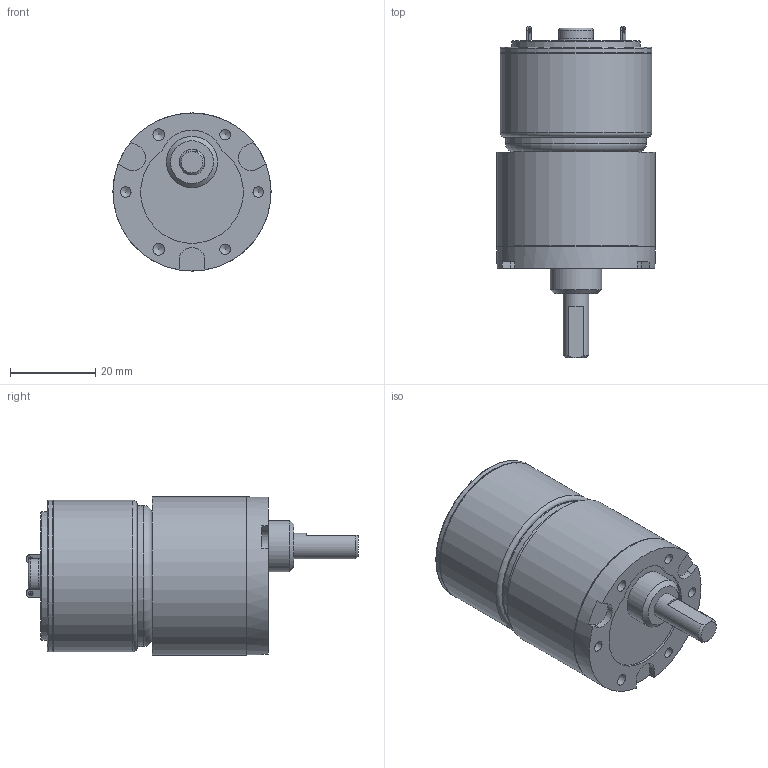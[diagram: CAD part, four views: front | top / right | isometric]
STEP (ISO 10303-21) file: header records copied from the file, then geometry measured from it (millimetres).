
FILE_DESCRIPTION((''),'2;1');
FILE_NAME('C:\Documents and Settings\SSEGAWA\デスクトップ\TP-3526E-KS-4.STP','2013-07-09T16:51:07',('SSEGAWA'),(''),'Autodesk Inventor 2010','Autodesk Inventor 2010','');
FILE_SCHEMA(('CONFIG_CONTROL_DESIGN'));
Length unit declared in the file: millimetre
Products named in the file (3): tp_3526e_ks_4; ks_4; tp_3526e
Assembly tree (2 placements, depth 2):
  tp_3526e_ks_4
    ks_4
    tp_3526e
Bounding box: 37 x 77.7 x 37 mm (x, y, z)
Volume: 54774.7 mm3; surface area: 11284.8 mm2
Topology: 3 solids, 3 shells, 91 faces, 203 edges, 133 vertices
Faces by surface type: plane 38, cylinder 23, bspline 22, torus 5, cone 3
Full cylindrical faces by diameter (mm): 1.1 x1, 2 x1, 2.4 x1, 5 x1, 6 x1, 8 x1, 10 x1, 12 x1, 30 x1, 33 x1, 35 x1, 35.4 x2, 36.6 x1, 37 x2
Entity records: 2560 total; most frequent: CARTESIAN_POINT 798, DIRECTION 363, ORIENTED_EDGE 268, AXIS2_PLACEMENT_3D 157, EDGE_LOOP 155, EDGE_CURVE 134, VERTEX_POINT 109, FACE_OUTER_BOUND 91
